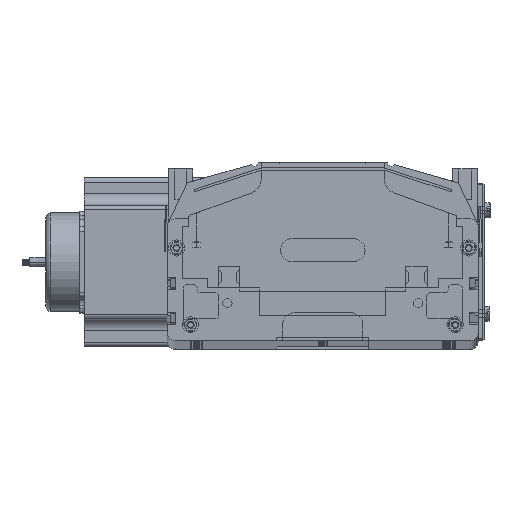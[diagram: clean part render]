
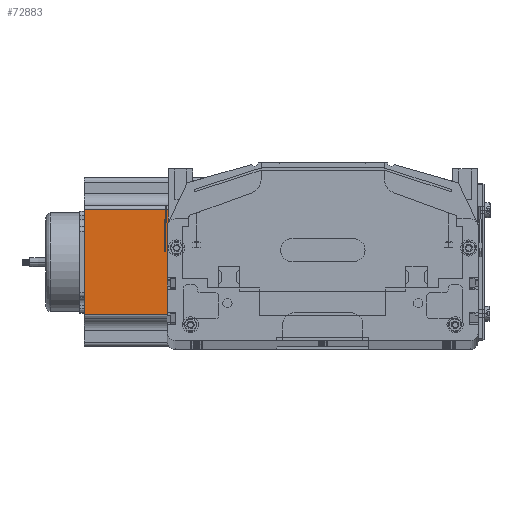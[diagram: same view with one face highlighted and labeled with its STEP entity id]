
A CAD part, top view. The second image highlights one B-rep face of the part: STEP entity #72883.
In plain terms, the highlighted planar face has unit normal (0, 0, 1) as drawn and (0, -1, 0) by its records, which use the part's own axes.
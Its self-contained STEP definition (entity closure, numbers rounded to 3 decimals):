
#4947 = DIRECTION ( 'NONE',  ( 0., 0., -1. ) ) ;
#4948 = VECTOR ( 'NONE', #4947, 1000. ) ;
#4949 = CARTESIAN_POINT ( 'NONE',  ( 21.048, 0., 160.5 ) ) ;
#4950 = LINE ( 'NONE', #4949, #4948 ) ;
#4966 = CARTESIAN_POINT ( 'NONE',  ( 21.048, 0., 0. ) ) ;
#4975 = DIRECTION ( 'NONE',  ( 0., 0., 1. ) ) ;
#4976 = DIRECTION ( 'NONE',  ( 0., 1., 0. ) ) ;
#4978 = CARTESIAN_POINT ( 'NONE',  ( 21.048, 0., 160.5 ) ) ;
#4979 = CARTESIAN_POINT ( 'NONE',  ( 88.952, 0., 0. ) ) ;
#4983 = CARTESIAN_POINT ( 'NONE',  ( 88.952, 0., 160.5 ) ) ;
#4984 = AXIS2_PLACEMENT_3D ( 'NONE', #4995, #4976, #4975 ) ;
#4995 = CARTESIAN_POINT ( 'NONE',  ( 0., 0., 160.5 ) ) ;
#5051 = DIRECTION ( 'NONE',  ( 1., 0., 0. ) ) ;
#5052 = VECTOR ( 'NONE', #5051, 1000. ) ;
#5056 = CARTESIAN_POINT ( 'NONE',  ( 0., 0., 160.5 ) ) ;
#5057 = LINE ( 'NONE', #5056, #5052 ) ;
#5059 = DIRECTION ( 'NONE',  ( 1., 0., 0. ) ) ;
#5060 = VECTOR ( 'NONE', #5059, 1000. ) ;
#5061 = CARTESIAN_POINT ( 'NONE',  ( 0., 0., 0. ) ) ;
#5062 = LINE ( 'NONE', #5061, #5060 ) ;
#5064 = DIRECTION ( 'NONE',  ( 0., 0., 1. ) ) ;
#5065 = VECTOR ( 'NONE', #5064, 1000. ) ;
#5066 = CARTESIAN_POINT ( 'NONE',  ( 88.952, 0., 160.5 ) ) ;
#5067 = LINE ( 'NONE', #5066, #5065 ) ;
#5114 = FACE_OUTER_BOUND ( 'NONE', #72806, .T. ) ;
#5116 = PLANE ( 'NONE',  #4984 ) ;
#72806 = EDGE_LOOP ( 'NONE', ( #73007, #72888, #72904, #73044 ) ) ;
#72883 = ADVANCED_FACE ( 'NONE', ( #5114 ), #5116, .F. ) ;
#72884 = VERTEX_POINT ( 'NONE', #4979 ) ;
#72886 = VERTEX_POINT ( 'NONE', #4983 ) ;
#72888 = ORIENTED_EDGE ( 'NONE', *, *, #72892, .T. ) ;
#72892 = EDGE_CURVE ( 'NONE', #72884, #72886, #5067, .T. ) ;
#72894 = EDGE_CURVE ( 'NONE', #72923, #72884, #5062, .T. ) ;
#72898 = VERTEX_POINT ( 'NONE', #4978 ) ;
#72899 = EDGE_CURVE ( 'NONE', #72898, #72886, #5057, .T. ) ;
#72904 = ORIENTED_EDGE ( 'NONE', *, *, #72899, .F. ) ;
#72916 = EDGE_CURVE ( 'NONE', #72898, #72923, #4950, .T. ) ;
#72923 = VERTEX_POINT ( 'NONE', #4966 ) ;
#73007 = ORIENTED_EDGE ( 'NONE', *, *, #72894, .T. ) ;
#73044 = ORIENTED_EDGE ( 'NONE', *, *, #72916, .T. ) ;
